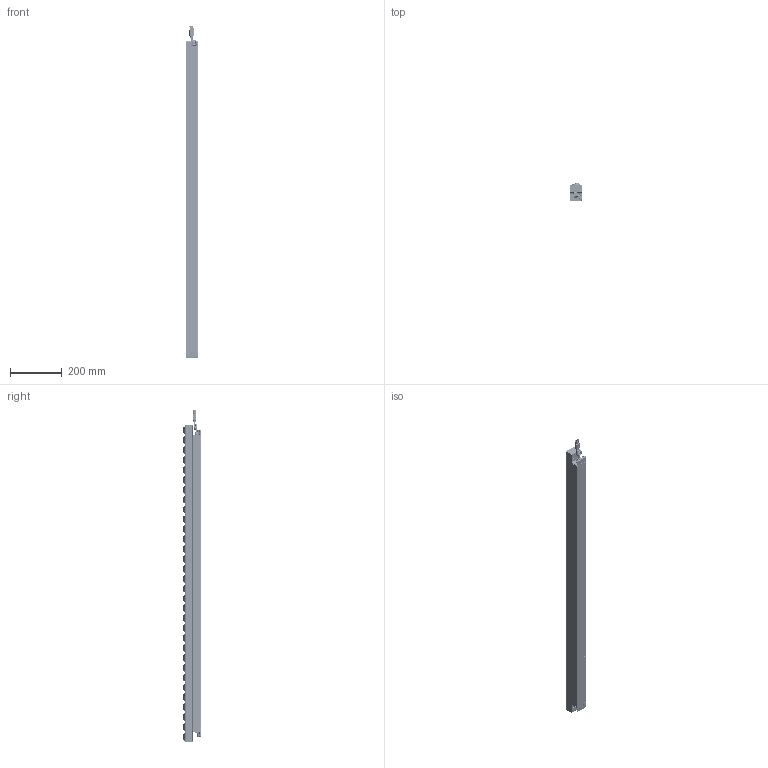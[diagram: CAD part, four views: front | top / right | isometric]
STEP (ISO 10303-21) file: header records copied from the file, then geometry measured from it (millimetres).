
FILE_DESCRIPTION (( 'STEP AP214' ), '1' );
FILE_NAME ('L60 4ft ASYM Lens model.STEP', '2023-08-14T21:30:04', ( '' ), ( '' ), 'SwSTEP 2.0', 'SolidWorks 2022', '' );
FILE_SCHEMA (( 'AUTOMOTIVE_DESIGN' ));
Length unit declared in the file: millimetre
Products named in the file (97): SCW-000483-00_92010A014; RES0402_RES-000742-00-1; OPC-000171-01_Snap Design; SOT23-5_XIC-000168-00-1; SOT23-3_FET_TRA-000109-00-9; SCW-000574-00_SCW-000574-00; BKT-000518-00; SRN6028_MAG-000017-00-1; LBL-000197-00; BKT-000458-XX; CAP0805_CAP-000341-00-14; CAP0402_CAP-000157-00-6; FOM-000028-00; RES0402_RES-000957-00-1; SCW-000156-00_92005A116; TMP-000028-00; RES0603_RES-000085-00-12; RES0603_RES-000154-00-12; RES0603_RES-000092-00-12; ACB-000256-00; LED0603_DIO-000085-00-11; LBL-000055-00; SCW-000556-00_90316A190; L2520_MAG-000016-00-1; SOT323_FET_TRA-000108-00-1; TMP-000029-00; GSK-000122-00; RES0402_RES-000736-00-1; VFDFN10_EP_XIC-000127-00-1; OPC-000157-00_Static 5D_LL01EC-EJK05L06 (W0938)_20210619_Rev 1; L60 4ft ASYM Lens model; SPG-000023-00_1561T13; CAP0603_CAP-000501-00-11; RES0805_RES-000022-00-1; SCW-000562-00_92000A106; TO277A_DIO-000297-00-1; POWERMITE3_DIO-000298-00-1; CAP0805_CAP-000342-00-1; PLG-000009-00_Adhesive_Vents_trov_L50_Vendor_P_N_VE70308-01; CAP0402_CAP-000327-00-3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
Assembly tree (251 placements, depth 4):
  L60 4ft ASYM Lens model
    BAS-000021-00
    Iris_L60_2FT_RevC  x2
      Iris_L60_2FT_RevC_BOARD
      SOD-523_CMP-04326-2
      CAP0402_CAP-000157-00-6
      RES0603_RES-000155-00-3
      RES0402_RES-000877-00-3
      LED_DUAL_NICHIA_LUXEON_WHITE_LED-000295-00-1
      PA4341.XXXNLT_MAG-000108-00-1
      RES1206_MAG-000066-00-1
      VQFN48_XIC-000116-00-1
      RES0603_RES-000092-00-12
      LED_DUAL_NICHIA_LUXEON_WHITE_LED-000294-00-1
      SRN6028_MAG-000017-00-1
      RES0402_RES-000957-00-1
      LED0603_DIO-000085-00-11
      CAP0603_CAP-000502-00-11
      RES0805_RES-000022-00-1
      SOT23-5_XIC-000168-00-1
      CAP0805_CAP-000343-00-14
      CAP0805_CAP-000147-00-1
      CAP0603_CAP-000501-00-11
      RES0603_RES-000809-00-12
      RES0603_RES-001304-00-1
      RES0603_RES-001303-00-1
      VFDFN10_EP_XIC-000127-00-1
      RES0603_RES-000154-00-12
      RES0603_RES-000085-00-12
      CAP0805_CAP-000342-00-1
      RES0603_RES-000061-00-12
      RES0603_RES-000054-00-12
      RES0603_RES-000070-00-12
      RES0603_RES-001328-00-12
      SOT323_BJT_TRA-000107-00-1
      SOT23-3_FET_TRA-000109-00-9
      SOT323_FET_TRA-000108-00-1
      CAP0603_CAP-000019-00-11
      RES0402_RES-000876-00-1
      CAP0402_CAP-000338-00-3
      SOT1210_FET_TRA-000058-00-11
      CONN_M50-3130545_HARWIN_CON-000136-00-1
      SOD-523_DIO-000128-00-25
      POWERDI5_DIO-000148-00-5
      CAP0805_CAP-000341-00-14
      CAP0402_CAP-000339-00-3
      CAP0402_CAP-000309-00-11
      CAP0603_CAP-000340-00-11
      PTS810_SWH-000002-00-1
      RES0402_RES-000736-00-1
      RES0402_RES-000742-00-1
      RES0402_RES-000975-00-1
      RES0402_RES-000955-00-1
      RES0402_RES-000732-00-1
      RES0402_RES-000752-00-1
      RES0603_RES-000953-00-12
      RES0603_RES-000961-00-1
      CAP0402_CAP-000327-00-3
      L2520_MAG-000016-00-1
      CMC_LAIRD_CM7060M132R-10_MAG-000069-00-1
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Bounding box: 50 x 68.49 x 1279.29 mm (x, y, z)
Volume: 1503250.3 mm3; surface area: 1542463.4 mm2
Topology: 557 solids, 636 shells, 28860 faces, 79004 edges, 50971 vertices
Faces by surface type: plane 14652, cylinder 7380, bspline 3271, cone 1690, torus 1422, sphere 445
Entity records: 694162 total; most frequent: CARTESIAN_POINT 388460, ORIENTED_EDGE 59770, DIRECTION 44666, EDGE_CURVE 29895, VERTEX_POINT 19144, AXIS2_PLACEMENT_3D 15835, LINE 12996, VECTOR 12996
